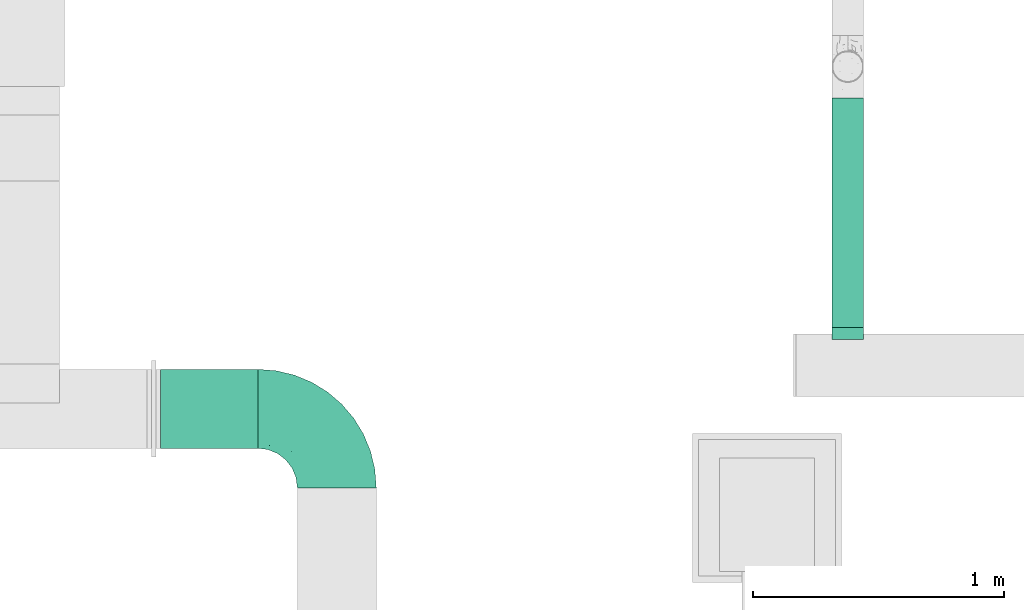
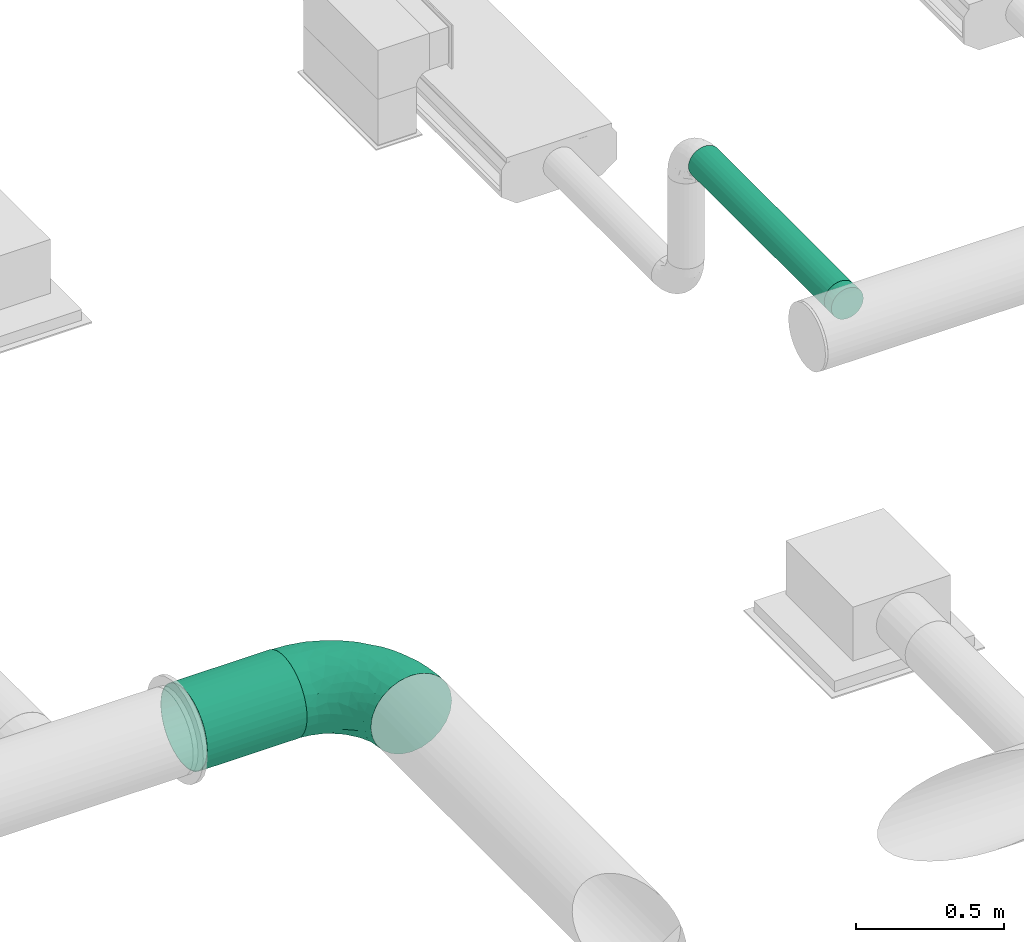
# One storey, part 21 of 36: 2 flow fittings, 2 flow segments.
"""IFC2X3 building model written with IfcOpenShell, lengths in millimetres."""

from ifc_helpers import new_model, entity, si_unit, converted_unit, derived_unit, direction, frame, origin_with_axes, origin_2d_with_axis, place, context, subcontext, project, spatial, hollow_circle, extrude, open_shell, surface_model, source, transform, mapped, type_object, element, save


model = new_model("IFC2X3")

# Units and contexts
model_context = context("Model", 3, precision=0.01, world=frame((0.0, 4.29681676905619e-09, 0.0)), true_north=direction((4.01073788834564e-13, 1.0)))
plan_context = context("Plan", 3, precision=0.01, world=frame((0.0, 4.29681676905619e-09, 0.0)), true_north=direction((4.01073788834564e-13, 1.0)))
body_context = subcontext(model_context, "Body", "Model", "MODEL_VIEW")
ifc_project = project(units=[converted_unit("PLANEANGLEUNIT", "DEGREE", entity("IfcPositiveLengthMeasure", 0.0174532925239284), si_unit("PLANEANGLEUNIT", "RADIAN"), dimensions=[0, 0, 0, 0, 0, 0, 0]), si_unit("AREAUNIT", "SQUARE_METRE"), si_unit("LENGTHUNIT", "METRE", prefix="MILLI"), si_unit("MASSUNIT", "GRAM", prefix="KILO"), si_unit("POWERUNIT", "WATT"), si_unit("PRESSUREUNIT", "PASCAL"), si_unit("FORCEUNIT", "NEWTON", prefix="KILO"), si_unit("ELECTRICCURRENTUNIT", "AMPERE"), si_unit("THERMODYNAMICTEMPERATUREUNIT", "DEGREE_CELSIUS"), si_unit("TIMEUNIT", "SECOND"), si_unit("VOLUMEUNIT", "CUBIC_METRE"), derived_unit("LINEARVELOCITYUNIT", [(si_unit("LENGTHUNIT", "METRE"), 1), (si_unit("TIMEUNIT", "SECOND"), -1)]), derived_unit("VOLUMETRICFLOWRATEUNIT", [(si_unit("VOLUMEUNIT", "CUBIC_METRE"), 1), (si_unit("TIMEUNIT", "SECOND"), -1)]), derived_unit("THERMALTRANSMITTANCEUNIT", [(si_unit("POWERUNIT", "WATT"), 1), (si_unit("THERMODYNAMICTEMPERATUREUNIT", "KELVIN"), -1), (si_unit("AREAUNIT", "SQUARE_METRE"), -1)])], contexts=[model_context, plan_context])

# Site, building, storey
site_placement = place(None, frame((0.0, -4.29681676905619e-09, 0.0), z_axis=(0.0, 0.0, 1.0), x_axis=(1.0, 0.0, 0.0)))
site = spatial("IfcSite", under=ifc_project, at=site_placement, CompositionType="ELEMENT")
building_placement = place(site_placement, frame((0.0, 4.29681676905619e-09, 0.0), z_axis=(0.0, 0.0, 1.0), x_axis=(1.0, 0.0, 0.0)))
building = spatial("IfcBuilding", under=site, at=building_placement, Name="mc-building", CompositionType="ELEMENT")
storey_placement = place(building_placement, frame((0.0, 0.0, 204000.0), z_axis=(0.0, 0.0, 1.0), x_axis=(1.0, 0.0, 0.0)))
storey = spatial("IfcBuildingStorey", under=building, at=storey_placement, Name="Nivå D", CompositionType="ELEMENT", Elevation=204000.0)

# Flow fittings
duct_fitting_type_1 = type_object("IfcDuctFittingType", Name="magicirc_tapoutlet_001", PredefinedType="CONNECTOR")
shared_shape_1 = source(origin_with_axes(), body_context, "Body", "SurfaceModel", [
    surface_model("IfcShellBasedSurfaceModel", [(25.0, 0.0, -62.5), (25.0, -31.25, -54.12659), (25.0, -16.17619, -60.37037), (-22.84282, 0.0, -62.5), (-22.84282, -16.17619, -60.37037), (-22.84282, 16.17619, -60.37037), (-22.84282, 60.37037, 16.17619), (-22.84282, 31.25, -54.12659), (-22.84282, 44.19417, -44.19417), (-22.84282, 54.12659, -31.25), (-22.84282, -62.5, 0.0), (-22.84282, -60.37037, 16.17619), (-22.84282, -44.19417, -44.19417), (-22.84282, -31.25, -54.12659), (-22.84282, -60.37037, -16.17619), (-22.84282, -54.12659, -31.25), (-22.84282, 60.37037, -16.17619), (-22.84282, 54.12659, 31.25), (-22.84282, 44.19417, 44.19417), (-22.84282, 16.17619, 60.37037), (-22.84282, 31.25, 54.12659), (-22.84282, -16.17619, 60.37037), (-22.84282, -54.12659, 31.25), (-22.84282, -44.19417, 44.19417), (-22.84282, -31.25, 54.12659), (-22.84282, 0.0, 62.5), (-22.84282, 62.5, 0.0), (0.0, 0.0, 62.5), (0.0, 16.17619, 60.37037), (0.0, 31.25, 54.12659), (0.0, 44.19417, 44.19417), (0.0, 54.12659, 31.25), (0.0, 60.37037, 16.17619), (0.0, 62.5, 0.0), (0.0, 60.37037, -16.17619), (0.0, 54.12659, -31.25), (0.0, 44.19417, -44.19417), (0.0, 31.25, -54.12659), (0.0, 16.17619, -60.37037), (0.0, 0.0, -62.5), (0.0, -16.17619, -60.37037), (0.0, -31.25, -54.12659), (0.0, -44.19417, -44.19417), (0.0, -54.12659, -31.25), (0.0, -60.37037, -16.17619), (0.0, -62.5, 0.0), (0.0, -60.37037, 16.17619), (0.0, -54.12659, 31.25), (0.0, -44.19417, 44.19417), (0.0, -31.25, 54.12659), (0.0, -16.17619, 60.37037), (25.0, 44.19417, -44.19417), (25.0, 62.5, 0.0), (25.0, 31.25, -54.12659), (25.0, 54.12659, -31.25), (25.0, -62.5, 0.0), (25.0, -60.37037, -16.17619), (25.0, -60.37037, 16.17619), (25.0, 16.17619, -60.37037), (25.0, -44.19417, -44.19417), (25.0, -54.12659, -31.25), (25.0, 60.37037, -16.17619), (25.0, 60.37037, 16.17619), (25.0, 54.12659, 31.25), (25.0, 44.19417, 44.19417), (25.0, 31.25, 54.12659), (25.0, 0.0, 62.5), (25.0, 16.17619, 60.37037), (25.0, -44.19417, 44.19417), (25.0, -54.12659, 31.25), (25.0, -16.17619, 60.37037), (25.0, -31.25, 54.12659)], [open_shell([[[0, 1, 2]], [[3, 4, 5]], [[5, 6, 7]], [[8, 6, 9]], [[7, 6, 8]], [[5, 10, 11]], [[12, 10, 13]], [[4, 13, 10]], [[14, 10, 15]], [[12, 15, 10]], [[10, 5, 4]], [[16, 9, 6]], [[6, 5, 17]], [[18, 17, 5]], [[5, 19, 20]], [[5, 20, 18]], [[5, 21, 19]], [[22, 23, 5]], [[5, 11, 22]], [[23, 24, 5]], [[5, 24, 21]], [[21, 25, 19]], [[26, 16, 6]], [[25, 27, 28]], [[19, 28, 29]], [[25, 28, 19]], [[20, 30, 18]], [[20, 19, 29]], [[30, 20, 29]], [[17, 31, 32]], [[6, 32, 33]], [[18, 31, 17]], [[6, 17, 32]], [[26, 6, 33]], [[31, 18, 30]], [[26, 33, 34]], [[16, 34, 35]], [[26, 34, 16]], [[9, 36, 8]], [[9, 16, 35]], [[36, 9, 35]], [[7, 37, 38]], [[5, 38, 39]], [[8, 37, 7]], [[5, 7, 38]], [[3, 5, 39]], [[37, 8, 36]], [[3, 39, 40]], [[4, 40, 41]], [[3, 40, 4]], [[13, 42, 12]], [[13, 4, 41]], [[42, 13, 41]], [[15, 43, 44]], [[14, 44, 45]], [[12, 43, 15]], [[14, 15, 44]], [[10, 14, 45]], [[43, 12, 42]], [[10, 45, 46]], [[11, 46, 47]], [[10, 46, 11]], [[22, 48, 23]], [[22, 11, 47]], [[48, 22, 47]], [[24, 49, 50]], [[21, 50, 27]], [[23, 49, 24]], [[21, 24, 50]], [[25, 21, 27]], [[49, 23, 48]], [[5, 17, 6]], [[5, 18, 17]], [[20, 5, 19]], [[20, 18, 5]], [[19, 5, 21]], [[22, 5, 11]], [[51, 52, 53]], [[51, 54, 52]], [[55, 56, 57]], [[58, 52, 0]], [[53, 52, 58]], [[59, 0, 57]], [[0, 59, 1]], [[1, 2, 0]], [[60, 57, 56]], [[57, 60, 59]], [[56, 57, 55]], [[52, 54, 61]], [[62, 63, 0]], [[0, 63, 64]], [[0, 65, 66]], [[64, 65, 0]], [[65, 67, 66]], [[0, 68, 69]], [[69, 57, 0]], [[70, 71, 0]], [[71, 68, 0]], [[70, 0, 66]], [[52, 62, 0]], [[27, 66, 67]], [[28, 67, 65]], [[27, 67, 28]], [[29, 64, 30]], [[29, 28, 65]], [[64, 29, 65]], [[31, 63, 62]], [[32, 62, 52]], [[30, 63, 31]], [[32, 31, 62]], [[33, 32, 52]], [[63, 30, 64]], [[33, 52, 61]], [[34, 61, 54]], [[33, 61, 34]], [[35, 51, 36]], [[35, 34, 54]], [[51, 35, 54]], [[37, 53, 58]], [[38, 58, 0]], [[36, 53, 37]], [[38, 37, 58]], [[39, 38, 0]], [[53, 36, 51]], [[39, 0, 2]], [[40, 2, 1]], [[39, 2, 40]], [[41, 59, 42]], [[41, 40, 1]], [[59, 41, 1]], [[43, 60, 56]], [[44, 56, 55]], [[42, 60, 43]], [[44, 43, 56]], [[45, 44, 55]], [[60, 42, 59]], [[45, 55, 57]], [[46, 57, 69]], [[45, 57, 46]], [[47, 68, 48]], [[47, 46, 69]], [[68, 47, 69]], [[49, 71, 70]], [[50, 70, 66]], [[48, 71, 49]], [[50, 49, 70]], [[27, 50, 66]], [[71, 48, 68]], [[63, 0, 62]], [[63, 64, 0]], [[0, 64, 65]], [[66, 65, 67]], [[57, 0, 69]], [[0, 71, 68]], [[66, 70, 0]], [[62, 0, 52]]])]),
])
flow_fitting_1_placement = place(storey_placement, frame((521218.76742, 416693.96658, 3200.0), z_axis=(0.0, 0.0, -1.0), x_axis=(0.0, 1.0, 0.0)))
element("IfcFlowFitting", 1, at=flow_fitting_1_placement, inside=storey, type_object=duct_fitting_type_1, Name="magicirc_tapoutlet_001", context=body_context, shape_type="MappedRepresentation", body=[
    mapped(shared_shape_1, transform((0.0, 0.0, 0.0), scale=1.0)),
])
duct_fitting_type_2 = type_object("IfcDuctFittingType", Name="magicirc_elbow_full_radius_001", PredefinedType="BEND")
shared_shape_2 = source(origin_with_axes(), body_context, "Body", "SurfaceModel", [
    surface_model("IfcShellBasedSurfaceModel", [(-315.0, 78.75, -136.39901), (-315.0, 40.764, -152.13332), (-315.0, 0.0, -157.5), (-315.0, 136.39901, -78.75), (-315.0, -40.764, -152.13332), (-315.0, 111.36932, -111.36932), (-315.0, -157.5, 0.0), (-315.0, -152.13332, 40.764), (-315.0, -111.36932, -111.36932), (-315.0, -152.13332, -40.764), (-315.0, -78.75, -136.39901), (-315.0, -136.39901, -78.75), (-315.0, 152.13332, -40.764), (-315.0, 152.13332, 40.764), (-315.0, 157.5, 0.0), (-315.0, 111.36932, 111.36932), (-315.0, 136.39901, 78.75), (-315.0, 78.75, 136.39901), (-315.0, 40.764, 152.13332), (-315.0, -111.36932, 111.36932), (-315.0, -78.75, 136.39901), (-315.0, -136.39901, 78.75), (-315.0, 0.0, 157.5), (-315.0, -40.764, 152.13332), (0.0, 315.0, -157.5), (-40.764, 315.0, -152.13332), (-78.75, 315.0, -136.39901), (-136.39901, 315.0, -78.75), (40.764, 315.0, -152.13332), (-111.36932, 315.0, -111.36932), (152.13332, 315.0, 40.764), (157.5, 315.0, 0.0), (78.75, 315.0, -136.39901), (152.13332, 315.0, -40.764), (111.36932, 315.0, -111.36932), (136.39901, 315.0, -78.75), (-152.13332, 315.0, -40.764), (-157.5, 315.0, 0.0), (-152.13332, 315.0, 40.764), (-111.36932, 315.0, 111.36932), (-136.39901, 315.0, 78.75), (-78.75, 315.0, 136.39901), (-40.764, 315.0, 152.13332), (136.39901, 315.0, 78.75), (78.75, 315.0, 136.39901), (111.36932, 315.0, 111.36932), (0.0, 315.0, 157.5), (40.764, 315.0, 152.13332), (-275.78673, -154.41385, 0.0), (-241.08472, -151.68274, 0.0), (-252.44974, -146.30358, 46.35165), (-187.41523, 212.23477, 44.18498), (-179.01149, 203.81739, 73.41005), (-160.11821, 234.12054, 71.62405), (-259.10789, -29.29167, 153.83069), (-244.91752, 10.986, 157.47118), (-224.67128, -127.46551, 78.41541), (-275.62484, -128.51884, 88.53098), (-239.58521, -68.78712, 137.8804), (-254.44946, -102.17277, 115.99392), (-204.97493, -89.72227, 117.91769), (-198.20454, -136.55993, 43.33884), (-148.94098, -119.38248, 47.89313), (-158.86886, -110.344, 75.73779), (39.78686, 15.52969, 50.216), (50.02524, 48.95167, 78.24133), (16.56876, 9.92294, 80.17525), (-156.73954, -92.78717, 99.09316), (-102.51279, -78.92253, 85.02595), (-126.30713, -72.38133, 106.65328), (-238.05749, 163.98734, 60.26168), (-237.20027, 147.2055, 88.84905), (-203.90523, 171.05831, 84.0913), (-99.39676, -101.96273, 31.06146), (-68.88048, -86.63056, 0.0), (-64.76022, -82.94549, 27.4714), (-194.76506, -28.32949, 149.7576), (24.59365, -9.6905, 28.83462), (43.18424, 9.08176, 0.0), (-28.15076, 147.0542, 156.53616), (-57.62232, 187.52251, 155.03024), (-72.61201, 106.84341, 157.43567), (-100.48949, -106.00058, 0.0), (-134.73948, -120.1874, 0.0), (-260.04347, 89.83524, 133.7152), (-237.26991, 125.02171, 112.97999), (-280.21215, 121.62894, 103.72153), (68.21928, 256.1901, 139.71452), (77.7719, 189.04071, 123.71299), (102.31809, 243.42041, 114.24978), (67.84442, 49.60938, 45.33346), (67.26053, 37.27147, 0.0), (90.55316, 77.99056, 29.40563), (-274.83669, 157.26153, 40.40661), (-274.67132, 145.30132, 71.02739), (-245.58363, 170.09727, 31.44943), (-158.01119, 282.57516, 29.57871), (-146.25125, 266.67126, 73.17914), (-201.21156, 99.95025, 140.23251), (-168.00076, 243.85557, 42.38557), (-236.25001, 178.601, 0.0), (-214.36106, 188.34463, 36.42869), (-203.63068, 203.63068, 0.0), (-162.86668, 274.236, 0.0), (-27.4795, -1.48331, 110.13927), (-51.96296, -33.03019, 100.52286), (-24.99652, -31.32094, 78.21218), (112.08788, 138.61937, 56.34637), (125.1619, 203.64453, 74.00759), (104.09929, 190.16434, 99.24634), (-263.88667, 52.46181, 150.1563), (6.28024, -18.02273, 54.59081), (-32.47692, -55.63747, 44.65165), (-205.03709, -143.02847, 0.0), (-151.50955, 215.6642, 97.49478), (-169.72394, 180.80582, 105.18325), (-137.80003, 192.65821, 121.95203), (-131.16131, 105.91152, 153.19188), (-137.52005, 135.51481, 144.53218), (-172.83727, 124.27225, 137.32768), (128.84491, 263.57392, 86.20478), (114.57644, 123.92915, 27.08781), (106.00058, 100.48949, 0.0), (131.75884, 176.48085, 38.42713), (143.02847, 205.03709, 0.0), (146.29642, 252.33829, 46.32598), (28.40156, 269.10441, 154.32704), (154.41385, 275.78673, 0.0), (-22.22564, 41.69116, 132.2609), (16.69324, 39.94323, 106.64404), (16.31975, 90.96952, 132.6244), (-52.03205, 254.37949, 150.89421), (153.88948, 315.0, 27.4246), (53.20704, 125.91085, 122.5592), (88.92651, 138.61761, 94.82216), (-274.236, 162.86668, 0.0), (-178.601, 236.25001, 0.0), (-168.81595, 14.50737, 156.32976), (-134.58592, -17.78306, 144.11351), (-96.06327, 24.61756, 149.79173), (-95.47965, 208.90923, 140.49399), (-78.67054, 72.23496, 155.69115), (-107.10628, 82.90122, 157.46314), (-89.91469, 266.26589, 132.78659), (-121.60296, 277.73788, 104.26598), (-11.78088, 260.70674, 157.34621), (-227.60537, 69.76326, 147.71238), (-195.7657, -66.84676, 132.57527), (-17.98791, 203.53807, 157.4841), (-60.53883, -60.45246, 74.88575), (-91.07399, -51.75682, 107.92189), (-197.57809, -110.08585, 94.49261), (-125.81015, 232.97235, 113.88738), (64.56465, 93.01368, 96.19249), (16.83328, 142.0015, 145.94195), (-22.72801, 90.93072, 148.21445), (-99.35511, 153.79, 150.7066), (57.69895, 213.45149, 140.44432), (29.76385, 212.9342, 151.06665), (41.25613, 174.00975, 141.99688), (81.24399, 84.86245, 65.51403), (-80.6457, -84.21175, 54.10058), (-119.42936, -101.75196, 60.63924), (-223.54613, 37.74243, 155.80439), (-168.22432, 88.17595, 150.9854), (-187.52253, 57.62232, 155.03024), (-196.7276, 148.24729, 112.17066), (-145.12836, 64.74974, 156.99994), (-62.1104, 49.45871, 148.77454), (-78.29466, 3.48913, 137.81789), (120.1874, 134.73948, 0.0), (134.3742, 168.98947, 0.0), (-124.07067, 168.52736, 138.84177), (0.02902, 171.95264, 154.42202), (-155.24181, 155.24181, 129.8968), (-73.90672, -22.7783, 121.68574), (-153.67663, -57.07317, 128.87412), (-113.78636, -39.32142, 127.49832), (-115.01886, 47.08507, 156.31037), (86.63056, 68.88048, 0.0), (-9.08176, -43.18424, 0.0), (19.10795, -19.10795, 0.0), (-168.98947, -134.3742, 0.0), (-37.27147, -67.26053, 0.0), (-315.0, -153.88948, 27.4246), (151.68274, 241.08472, 0.0), (-255.73532, 122.56558, -109.04479), (-214.29406, 93.80227, -140.10177), (-163.84149, 105.49727, -146.95596), (-183.82971, 59.98852, -154.94923), (-192.31906, 130.25635, -126.94074), (-214.67055, 186.05827, -42.62213), (-186.74496, 194.75879, -73.69482), (-239.00567, 164.73426, -57.54591), (84.53784, 80.13877, -52.6065), (-261.00954, 11.80363, -157.34285), (-250.44216, -29.83398, -153.37151), (-268.19836, 89.9699, -132.49512), (18.83806, 119.2151, -140.07242), (49.91254, 115.17721, -120.81771), (12.06978, 71.6341, -127.34592), (-248.07962, 169.80005, -27.2725), (-275.80747, 156.39383, -42.62213), (-196.40633, -137.77993, -37.15996), (-145.81166, -120.76195, -39.54807), (29.83399, 250.44214, -153.37151), (-188.19275, 214.15275, -37.45863), (-263.66616, 144.09279, -78.48806), (-189.95567, 165.06391, -102.28747), (43.89547, 65.88084, -99.75423), (78.16417, 108.21393, -90.03536), (-249.49402, 51.93128, -151.25871), (-315.0, -153.88948, -27.4246), (-247.57479, -102.2991, -114.91111), (-172.13573, -94.4716, -103.54526), (-203.64451, -125.1619, -74.00758), (-15.43872, -39.86246, -49.86848), (-49.56463, -70.60072, -36.85181), (-48.59952, -58.5205, -64.27403), (-252.33829, -146.29642, -46.32598), (-150.4225, 203.44707, -106.34238), (-263.57392, -128.84491, -86.20478), (-270.63117, -67.13499, -141.2369), (-215.39001, -68.32685, -135.04042), (102.2991, 247.57479, -114.91111), (-84.30908, -81.65653, -64.10818), (-91.06615, -97.14589, -32.77134), (94.4716, 172.13573, -103.54526), (68.32685, 215.39, -135.04042), (-163.2898, 237.20307, -62.64493), (-225.79476, 144.1207, -99.31867), (-157.79862, 273.70924, -39.50029), (-170.19986, 243.41794, -35.38905), (128.35851, 166.25059, -38.79853), (111.33052, 119.84284, -33.59532), (107.99483, 139.73378, -66.29524), (-159.64305, 170.07843, -119.54587), (-180.81821, -30.01596, -147.51371), (-145.25442, 275.15448, -70.89775), (-89.88491, 264.92544, -132.9879), (-44.17449, 280.59439, -151.79735), (-59.757, 315.0, -144.26616), (9.31111, -25.05617, -28.4426), (53.009, 25.90805, -37.46377), (-11.80362, 261.00954, -157.34285), (67.13499, 270.63117, -141.2369), (-92.6263, 92.62629, -157.49916), (-118.96141, 121.25661, -152.49801), (-64.39537, 156.51032, -156.4116), (-60.182, 62.8574, -151.37938), (-107.20835, 12.13665, -148.56572), (-115.08393, 49.61455, -156.55155), (128.84491, 263.57392, -86.20478), (142.02096, 205.05236, -27.6146), (29.81946, 180.40381, -147.52592), (-13.4149, 195.22557, -157.2133), (146.29642, 252.33829, -46.32598), (-37.40914, -4.7821, -114.20577), (-6.41858, -12.60422, -81.0379), (-50.98723, -38.43118, -94.2951), (-120.93204, -103.51151, -58.28641), (-96.41026, 201.21637, -141.79045), (-123.09172, 250.65074, -110.13461), (-121.89335, 288.06679, -101.98259), (-63.35086, 202.24527, -152.53228), (-222.08454, -6.89853, -156.21984), (125.1619, 203.64451, -74.00758), (-51.91054, 246.85668, -151.45138), (-161.36987, -115.89647, -67.15691), (61.05333, 59.83208, -73.20753), (-114.28437, -21.13487, -137.6727), (-72.08976, 0.21966, -134.09767), (2.17272, 150.10188, -151.66391), (-117.40709, -78.70988, -95.14777), (15.79609, -8.49924, -54.72897), (67.75002, 163.86592, -124.46846), (-163.86592, -67.75002, -124.46846), (-128.02491, 185.93738, -130.75264), (-108.32235, 160.67293, -146.80015), (-225.72616, 27.09586, -156.91411), (-54.59519, 105.68211, -156.33724), (-32.5663, 145.08674, -156.82141), (-145.37889, -8.42453, -149.28396), (-136.98265, 81.1657, -156.07826), (-156.31197, 39.80053, -157.47731), (-31.52679, 31.52678, -132.01846), (-143.53867, 148.20903, -138.06198), (-187.31767, 14.48755, -157.07868), (-19.17494, 108.97533, -150.78529), (2.87334, 23.19904, -105.99183), (32.99767, 23.1947, -73.77925), (-74.47057, -30.27504, -116.67674), (-115.17722, -49.91255, -120.81771), (153.88948, 315.0, -27.4246)], [open_shell([[[0, 1, 2]], [[3, 0, 2]], [[4, 3, 2]], [[5, 0, 3]], [[3, 6, 7]], [[8, 9, 10]], [[4, 10, 6]], [[11, 9, 8]], [[6, 10, 9]], [[6, 3, 4]], [[7, 12, 3]], [[13, 14, 15]], [[16, 13, 15]], [[17, 15, 7]], [[7, 15, 14]], [[17, 7, 18]], [[19, 20, 21]], [[7, 21, 22]], [[23, 22, 20]], [[21, 20, 22]], [[22, 18, 7]], [[12, 7, 14]], [[24, 25, 26]], [[24, 26, 27]], [[24, 27, 28]], [[27, 26, 29]], [[30, 31, 27]], [[32, 33, 34]], [[31, 32, 28]], [[34, 33, 35]], [[33, 32, 31]], [[28, 27, 31]], [[27, 36, 37]], [[27, 38, 39]], [[39, 38, 40]], [[30, 39, 41]], [[39, 30, 27]], [[41, 42, 30]], [[43, 44, 45]], [[46, 43, 30]], [[44, 46, 47]], [[46, 44, 43]], [[30, 42, 46]], [[38, 27, 37]], [[48, 49, 50]], [[51, 52, 53]], [[22, 54, 55]], [[56, 57, 50]], [[58, 59, 60]], [[23, 20, 58]], [[61, 62, 63]], [[64, 65, 66]], [[67, 68, 69]], [[70, 71, 72]], [[20, 59, 58]], [[73, 74, 75]], [[76, 54, 58]], [[64, 77, 78]], [[79, 80, 81]], [[50, 61, 56]], [[82, 73, 83]], [[84, 85, 86]], [[87, 88, 89]], [[22, 55, 18]], [[90, 91, 92]], [[93, 94, 70]], [[70, 95, 93]], [[96, 97, 38]], [[85, 84, 98]], [[99, 51, 53]], [[71, 70, 94]], [[100, 101, 102]], [[96, 103, 99]], [[14, 13, 93]], [[94, 93, 13]], [[64, 90, 65]], [[104, 105, 106]], [[107, 108, 109]], [[17, 110, 84]], [[111, 106, 112]], [[113, 50, 49]], [[20, 19, 59]], [[114, 115, 116]], [[117, 118, 119]], [[89, 44, 87]], [[19, 21, 57]], [[120, 89, 108]], [[121, 92, 122]], [[123, 124, 125]], [[46, 126, 47]], [[125, 127, 30]], [[16, 15, 86]], [[128, 129, 130]], [[120, 43, 45]], [[43, 125, 30]], [[123, 108, 107]], [[42, 41, 131]], [[127, 31, 132]], [[133, 134, 88]], [[93, 95, 135]], [[21, 7, 50]], [[99, 103, 136]], [[137, 138, 139]], [[102, 101, 51]], [[103, 96, 37]], [[140, 80, 131]], [[72, 101, 70]], [[51, 136, 102]], [[141, 81, 142]], [[131, 143, 140]], [[38, 97, 40]], [[39, 40, 144]], [[89, 45, 44]], [[145, 42, 131]], [[16, 94, 13]], [[41, 143, 131]], [[145, 46, 42]], [[15, 17, 84]], [[137, 55, 76]], [[23, 54, 22]], [[146, 84, 110]], [[58, 60, 147]], [[44, 47, 87]], [[88, 134, 109]], [[41, 39, 143]], [[80, 79, 148]], [[149, 150, 68]], [[67, 151, 63]], [[17, 18, 110]], [[84, 146, 98]], [[120, 125, 43]], [[125, 108, 123]], [[50, 7, 48]], [[50, 113, 61]], [[53, 52, 114]], [[144, 97, 152]], [[153, 129, 65]], [[111, 64, 66]], [[57, 59, 19]], [[60, 151, 67]], [[130, 133, 154]], [[129, 128, 104]], [[155, 154, 79]], [[156, 81, 80]], [[126, 87, 47]], [[157, 158, 159]], [[157, 88, 87]], [[160, 153, 65]], [[58, 54, 23]], [[55, 54, 76]], [[161, 162, 73]], [[162, 67, 63]], [[144, 143, 39]], [[143, 152, 140]], [[148, 131, 80]], [[126, 145, 158]], [[18, 55, 110]], [[163, 110, 55]], [[164, 98, 165]], [[98, 119, 166]], [[167, 117, 164]], [[140, 156, 80]], [[138, 137, 76]], [[168, 169, 128]], [[107, 134, 160]], [[89, 109, 108]], [[121, 123, 107]], [[170, 171, 123]], [[89, 120, 45]], [[125, 120, 108]], [[86, 94, 16]], [[94, 86, 71]], [[145, 126, 46]], [[126, 158, 157]], [[116, 140, 152]], [[118, 156, 172]], [[140, 116, 172]], [[81, 156, 117]], [[117, 167, 142]], [[81, 155, 79]], [[155, 130, 154]], [[148, 158, 145]], [[159, 88, 157]], [[173, 158, 148]], [[148, 79, 173]], [[131, 148, 145]], [[95, 70, 101]], [[14, 93, 135]], [[101, 100, 95]], [[135, 95, 100]], [[97, 144, 40]], [[143, 144, 152]], [[166, 71, 85]], [[71, 166, 72]], [[98, 166, 85]], [[166, 115, 72]], [[115, 166, 174]], [[101, 72, 52]], [[116, 115, 174]], [[52, 72, 115]], [[116, 174, 172]], [[114, 116, 152]], [[97, 114, 152]], [[52, 115, 114]], [[118, 172, 174]], [[140, 172, 156]], [[119, 118, 174]], [[156, 118, 117]], [[166, 119, 174]], [[119, 98, 164]], [[128, 130, 155]], [[153, 130, 129]], [[168, 128, 155]], [[104, 106, 66]], [[128, 169, 104]], [[162, 68, 67]], [[175, 150, 105]], [[176, 138, 76]], [[141, 155, 81]], [[139, 169, 168]], [[176, 69, 177]], [[147, 76, 58]], [[177, 150, 175]], [[138, 169, 139]], [[167, 137, 178]], [[137, 165, 163]], [[121, 122, 170]], [[126, 157, 87]], [[92, 121, 107]], [[123, 121, 170]], [[92, 107, 160]], [[90, 92, 160]], [[92, 91, 179]], [[65, 90, 160]], [[114, 97, 53]], [[160, 134, 153]], [[66, 65, 129]], [[134, 133, 153]], [[153, 133, 130]], [[104, 66, 129]], [[111, 66, 106]], [[149, 112, 106]], [[77, 64, 111]], [[161, 73, 75]], [[180, 181, 77]], [[77, 111, 112]], [[91, 90, 78]], [[77, 181, 78]], [[90, 64, 78]], [[97, 99, 53]], [[84, 86, 15]], [[86, 85, 71]], [[62, 61, 182]], [[151, 59, 56]], [[176, 60, 67]], [[59, 151, 60]], [[56, 61, 63]], [[56, 63, 151]], [[162, 63, 62]], [[62, 182, 83]], [[162, 161, 68]], [[149, 68, 161]], [[68, 150, 69]], [[62, 73, 162]], [[73, 82, 74]], [[183, 112, 75]], [[112, 149, 161]], [[149, 106, 105]], [[183, 75, 74]], [[112, 161, 75]], [[177, 69, 150]], [[176, 67, 69]], [[60, 176, 147]], [[76, 147, 176]], [[7, 184, 48]], [[184, 6, 48]], [[127, 125, 185]], [[127, 132, 30]], [[97, 96, 99]], [[37, 96, 38]], [[50, 57, 21]], [[59, 57, 56]], [[136, 51, 99]], [[101, 52, 51]], [[124, 123, 171]], [[124, 185, 125]], [[158, 173, 159]], [[154, 133, 159]], [[88, 159, 133]], [[83, 73, 62]], [[137, 163, 55]], [[146, 163, 165]], [[163, 146, 110]], [[98, 146, 165]], [[167, 164, 165]], [[119, 164, 117]], [[137, 167, 165]], [[167, 178, 142]], [[178, 139, 141]], [[117, 142, 81]], [[178, 141, 142]], [[155, 141, 168]], [[88, 109, 89]], [[107, 109, 134]], [[79, 154, 173]], [[173, 154, 159]], [[175, 104, 169]], [[149, 105, 150]], [[104, 175, 105]], [[177, 169, 138]], [[169, 177, 175]], [[138, 176, 177]], [[141, 139, 168]], [[139, 178, 137]], [[112, 180, 77]], [[179, 122, 92]], [[112, 183, 180]], [[113, 182, 61]], [[186, 5, 3]], [[187, 188, 189]], [[188, 187, 190]], [[191, 192, 193]], [[91, 194, 179]], [[2, 195, 196]], [[0, 5, 197]], [[198, 199, 200]], [[201, 202, 135]], [[182, 203, 204]], [[100, 201, 135]], [[28, 205, 24]], [[191, 102, 206]], [[12, 202, 207]], [[192, 208, 193]], [[209, 199, 210]], [[0, 211, 1]], [[197, 186, 187]], [[9, 48, 212]], [[213, 214, 215]], [[48, 6, 212]], [[216, 217, 218]], [[9, 11, 219]], [[192, 220, 208]], [[8, 221, 11]], [[191, 193, 201]], [[222, 196, 223]], [[10, 4, 222]], [[10, 222, 213]], [[113, 219, 203]], [[204, 82, 83]], [[32, 34, 224]], [[225, 217, 226]], [[8, 10, 213]], [[227, 228, 224]], [[229, 220, 192]], [[136, 206, 102]], [[186, 230, 190]], [[231, 229, 232]], [[233, 234, 235]], [[37, 36, 231]], [[208, 220, 236]], [[237, 223, 196]], [[238, 231, 36]], [[4, 2, 196]], [[239, 26, 240]], [[29, 26, 239]], [[232, 103, 231]], [[240, 241, 25]], [[78, 242, 243]], [[211, 0, 197]], [[24, 244, 25]], [[238, 36, 27]], [[24, 205, 244]], [[28, 245, 205]], [[180, 216, 242]], [[246, 247, 248]], [[14, 135, 202]], [[228, 245, 224]], [[234, 179, 194]], [[234, 194, 235]], [[249, 250, 251]], [[35, 252, 34]], [[28, 32, 245]], [[233, 253, 171]], [[205, 254, 255]], [[127, 185, 256]], [[33, 127, 256]], [[238, 229, 231]], [[230, 186, 207]], [[257, 258, 259]], [[35, 33, 256]], [[226, 260, 225]], [[218, 217, 225]], [[239, 261, 262]], [[263, 27, 29]], [[12, 207, 3]], [[264, 255, 248]], [[189, 211, 187]], [[265, 196, 195]], [[252, 224, 34]], [[227, 224, 266]], [[254, 205, 228]], [[244, 255, 267]], [[2, 1, 195]], [[196, 265, 237]], [[214, 213, 223]], [[221, 213, 215]], [[221, 219, 11]], [[268, 203, 215]], [[253, 185, 124]], [[252, 256, 266]], [[269, 210, 194]], [[227, 235, 210]], [[270, 250, 271]], [[198, 272, 254]], [[225, 273, 259]], [[274, 216, 258]], [[239, 267, 264]], [[263, 239, 262]], [[235, 227, 266]], [[275, 228, 227]], [[223, 276, 214]], [[214, 276, 273]], [[100, 102, 191]], [[202, 201, 193]], [[191, 201, 100]], [[191, 206, 192]], [[206, 229, 192]], [[229, 238, 220]], [[261, 277, 262]], [[277, 261, 278]], [[248, 247, 278]], [[190, 187, 186]], [[202, 193, 207]], [[14, 202, 12]], [[230, 193, 208]], [[3, 207, 186]], [[255, 244, 205]], [[26, 241, 240]], [[1, 211, 195]], [[279, 195, 211]], [[186, 197, 5]], [[211, 197, 187]], [[275, 254, 228]], [[199, 209, 200]], [[246, 249, 251]], [[280, 248, 281]], [[270, 282, 250]], [[237, 270, 276]], [[283, 251, 284]], [[285, 257, 271]], [[193, 230, 207]], [[230, 208, 190]], [[236, 190, 208]], [[188, 190, 286]], [[286, 247, 188]], [[284, 287, 189]], [[283, 188, 247]], [[189, 287, 279]], [[278, 247, 286]], [[283, 247, 246]], [[248, 278, 264]], [[255, 272, 281]], [[251, 283, 246]], [[189, 188, 283]], [[280, 249, 246]], [[250, 282, 284]], [[288, 285, 249]], [[249, 285, 271]], [[213, 221, 8]], [[219, 221, 215]], [[256, 252, 35]], [[224, 252, 266]], [[250, 249, 271]], [[285, 200, 289]], [[263, 238, 27]], [[220, 238, 262]], [[235, 266, 233]], [[210, 235, 194]], [[209, 269, 290]], [[210, 199, 275]], [[289, 209, 290]], [[209, 289, 200]], [[258, 289, 290]], [[257, 285, 289]], [[285, 288, 200]], [[198, 200, 288]], [[274, 258, 290]], [[218, 258, 216]], [[232, 229, 206]], [[37, 231, 103]], [[253, 266, 256]], [[233, 170, 234]], [[272, 198, 288]], [[275, 198, 254]], [[281, 272, 288]], [[255, 254, 272]], [[280, 281, 288]], [[255, 281, 248]], [[249, 280, 288]], [[248, 280, 246]], [[204, 268, 260]], [[74, 226, 217]], [[277, 278, 286]], [[278, 261, 264]], [[236, 277, 286]], [[262, 277, 220]], [[258, 257, 289]], [[122, 179, 234]], [[170, 233, 171]], [[170, 122, 234]], [[291, 257, 259]], [[291, 271, 257]], [[271, 291, 270]], [[276, 270, 292]], [[282, 270, 237]], [[237, 287, 282]], [[282, 287, 284]], [[273, 291, 259]], [[291, 292, 270]], [[266, 253, 233]], [[185, 253, 256]], [[224, 245, 32]], [[205, 245, 228]], [[196, 222, 4]], [[213, 222, 223]], [[243, 274, 290]], [[242, 216, 274]], [[243, 290, 269]], [[78, 181, 242]], [[243, 242, 274]], [[183, 217, 180]], [[242, 181, 180]], [[206, 136, 232]], [[124, 171, 253]], [[103, 232, 136]], [[113, 49, 219]], [[215, 203, 219]], [[48, 219, 49]], [[9, 219, 48]], [[293, 31, 127]], [[127, 33, 293]], [[239, 263, 29]], [[238, 263, 262]], [[226, 204, 260]], [[243, 91, 78]], [[74, 82, 226]], [[180, 217, 216]], [[74, 217, 183]], [[204, 203, 268]], [[260, 268, 273]], [[215, 214, 268]], [[273, 268, 214]], [[225, 259, 218]], [[258, 218, 259]], [[240, 244, 267]], [[244, 240, 25]], [[240, 267, 239]], [[194, 91, 243]], [[210, 275, 227]], [[275, 199, 198]], [[237, 276, 223]], [[273, 276, 292]], [[273, 292, 291]], [[260, 273, 225]], [[277, 236, 220]], [[190, 236, 286]], [[189, 279, 211]], [[265, 279, 287]], [[279, 265, 195]], [[237, 265, 287]], [[239, 264, 261]], [[255, 264, 267]], [[283, 284, 189]], [[284, 251, 250]], [[210, 269, 209]], [[243, 269, 194]], [[82, 204, 226]], [[83, 182, 204]], [[203, 182, 113]]])]),
])
flow_fitting_2_placement = place(storey_placement, frame((519180.55848, 416394.68824, 2584.12929000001), z_axis=(0.0, 0.0, 1.0), x_axis=(0.0, 1.0, 0.0)))
element("IfcFlowFitting", 2, at=flow_fitting_2_placement, inside=storey, type_object=duct_fitting_type_2, Name="magicirc_elbow_full_radius_001", context=body_context, shape_type="MappedRepresentation", body=[
    mapped(shared_shape_2, transform((0.0, 0.0, 0.0), scale=1.0)),
])

# Flow segments
duct_segment_type = type_object("IfcDuctSegmentType", Name="KK001T - Spiro kanaler, Forsinket stål", PredefinedType="RIGIDSEGMENT")
shared_shape_3 = source(origin_with_axes(), body_context, "Body", "SweptSolid", [
    extrude(hollow_circle(Radius=62.5, WallThickness=2.0, at=origin_2d_with_axis()), frame((0.0, 0.0, 0.0), z_axis=(1.0, 0.0, 0.0), x_axis=(0.0, 1.0, 0.0)), (0.0, 0.0, 1.0), 915.7),
])
flow_segment_1_placement = place(storey_placement, frame((521218.76742, 417634.63635, 3199.99995), z_axis=(0.0, 0.0, 1.0), x_axis=(0.0, -1.0, 0.0)))
element("IfcFlowSegment", 3, at=flow_segment_1_placement, inside=storey, type_object=duct_segment_type, Name="KK001T - Spiro kanaler, Forsinket stål", context=body_context, shape_type="MappedRepresentation", body=[
    mapped(shared_shape_3, transform((0.0, 0.0, 0.0), scale=1.0)),
])
shared_shape_4 = source(origin_with_axes(), body_context, "Body", "SweptSolid", [
    extrude(hollow_circle(Radius=157.5, WallThickness=2.0, at=origin_2d_with_axis()), frame((0.0, 0.0, 0.0), z_axis=(1.0, 0.0, 0.0), x_axis=(0.0, 1.0, 0.0)), (0.0, 0.0, 1.0), 388.1),
])
flow_segment_2_placement = place(storey_placement, frame((518865.55848, 416394.68824, 2584.12929000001), z_axis=(0.0, 0.0, 1.0), x_axis=(-1.0, 0.0, 0.0)))
element("IfcFlowSegment", 4, at=flow_segment_2_placement, inside=storey, type_object=duct_segment_type, Name="KK001T - Spiro kanaler, Forsinket stål", context=body_context, shape_type="MappedRepresentation", body=[
    mapped(shared_shape_4, transform((0.0, 0.0, 0.0), scale=1.0)),
])

save(model, "model.ifc")
